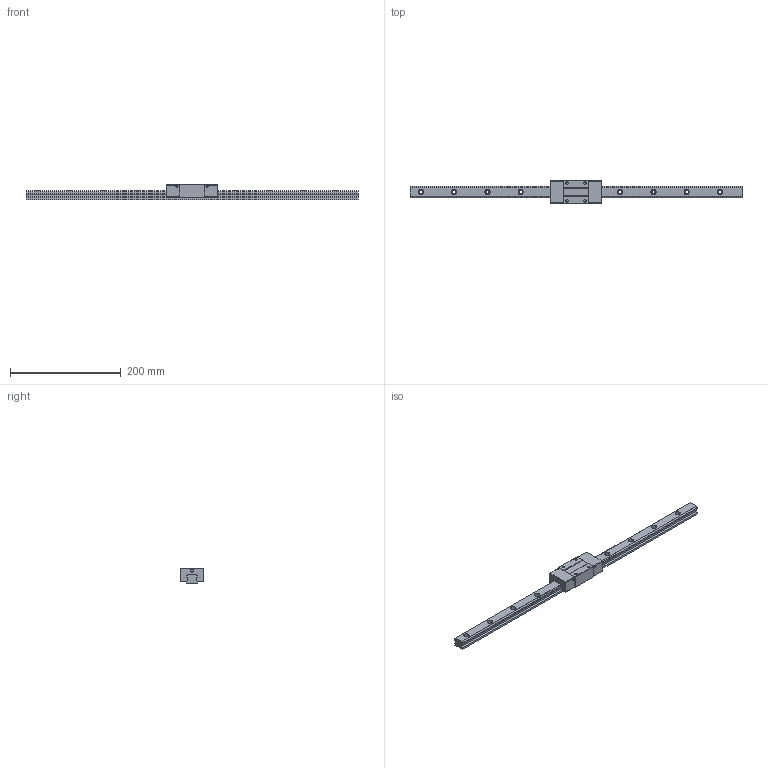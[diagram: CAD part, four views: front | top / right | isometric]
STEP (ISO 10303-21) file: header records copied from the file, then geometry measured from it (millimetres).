
FILE_DESCRIPTION (( 'STEP AP203' ), '1' );
FILE_NAME ('TRS20VN-DZ.STEP', '2024-06-28T07:12:22', ( '' ), ( '' ), 'SwSTEP 2.0', 'SolidWorks 2022', '' );
FILE_SCHEMA (( 'CONFIG_CONTROL_DESIGN' ));
Length unit declared in the file: millimetre
Products named in the file (1): TRS20VN-DZ
Bounding box: 600 x 42 x 28 mm (x, y, z)
Volume: 237607.3 mm3; surface area: 66442.6 mm2
Topology: 2 solids, 2 shells, 192 faces, 496 edges, 328 vertices
Faces by surface type: cylinder 96, plane 96
Entity records: 6023 total; most frequent: DIRECTION 1074, CARTESIAN_POINT 1017, ORIENTED_EDGE 992, EDGE_CURVE 496, AXIS2_PLACEMENT_3D 385, VERTEX_POINT 328, VECTOR 304, LINE 304
